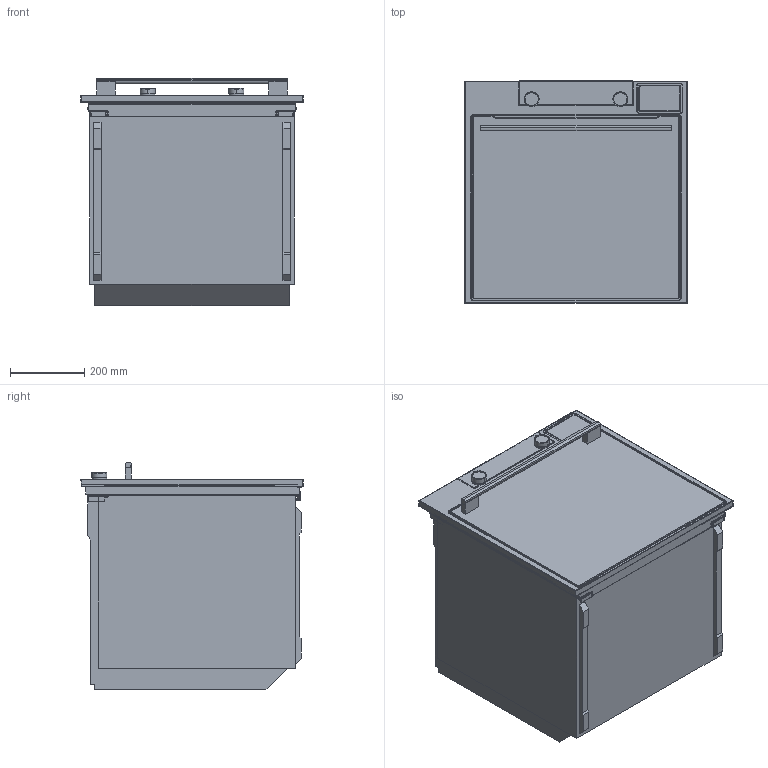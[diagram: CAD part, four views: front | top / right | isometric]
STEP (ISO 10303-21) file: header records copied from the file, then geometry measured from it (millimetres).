
FILE_DESCRIPTION (( 'STEP AP203' ), '1' );
FILE_NAME ('503328_OCS8687S.STEP', '2017-09-14T07:11:36', ( '' ), ( '' ), 'SwSTEP 2.0', 'SolidWorks 2016', '' );
FILE_SCHEMA (( 'CONFIG_CONTROL_DESIGN' ));
Length unit declared in the file: millimetre
Products named in the file (25): CEL APARAT BIO 60 ST Dot matrix G.sldasm-Part-69; 003_FIX FRAME 60 STEAM.sldasm-Part-25; 003_FIX FRAME 60 STEAM.sldasm-Part-12; CEL APARAT BIO 60 ST Dot matrix G.sldasm-Part-70; 003_FIX FRAME 60 STEAM.sldasm-Part-27; 003_FIX FRAME 60 STEAM.sldasm-Part-9; OBOD PECICE; HANDLE MATRIX; 003_FIX FRAME 60 STEAM.sldasm-Part-7; PECICA; DOOR 60 MATRIX STEAM^003_FIX FRAME 60 STEAM; 003_FIX FRAME 60 STEAM.sldasm-Part-18; 003.sldasm-Part-10; 003_FIX FRAME 60 STEAM.sldasm-Part-32; 003_FIX FRAME 60 STEAM.sldasm-Part-37; OBOD; 003_FIX FRAME 60 STEAM.sldasm-Part-35; 003_FIX FRAME 60 STEAM.sldasm-Part-19; OVEN 60 MATRIX STEAM; KNOB MATRIX; 003_FIX FRAME 60 STEAM.sldasm-Part-29; 503328_OCS8687S; 003_FIX FRAME 60 STEAM; FRAME 60; 003_FIX FRAME 60 STEAM.sldasm-Part-40
Assembly tree (27 placements, depth 6):
  503328_OCS8687S
    OVEN 60 MATRIX STEAM
      003_FIX FRAME 60 STEAM
        003_FIX FRAME 60 STEAM.sldasm-Part-40
        003_FIX FRAME 60 STEAM.sldasm-Part-12
        003_FIX FRAME 60 STEAM.sldasm-Part-9
        003_FIX FRAME 60 STEAM.sldasm-Part-7
        003_FIX FRAME 60 STEAM.sldasm-Part-18
        DOOR 60 MATRIX STEAM^003_FIX FRAME 60 STEAM
          003_FIX FRAME 60 STEAM.sldasm-Part-37
          FRAME 60
            003_FIX FRAME 60 STEAM.sldasm-Part-19  x2
            003_FIX FRAME 60 STEAM.sldasm-Part-29
          HANDLE MATRIX
            003_FIX FRAME 60 STEAM.sldasm-Part-25  x2
            003_FIX FRAME 60 STEAM.sldasm-Part-27
        KNOB MATRIX  x2
          003_FIX FRAME 60 STEAM.sldasm-Part-32
          003_FIX FRAME 60 STEAM.sldasm-Part-35
      PECICA
        OBOD PECICE
          CEL APARAT BIO 60 ST Dot matrix G.sldasm-Part-69
          CEL APARAT BIO 60 ST Dot matrix G.sldasm-Part-70
      OBOD
        003.sldasm-Part-10
Bounding box: 597 x 596.9 x 610.17 mm (x, y, z)
Volume: 159164033.7 mm3; surface area: 3708870.6 mm2
Topology: 19 solids, 19 shells, 502 faces, 1305 edges, 847 vertices
Faces by surface type: plane 279, cylinder 185, bspline 26, torus 8, sphere 4
Entity records: 18170 total; most frequent: CARTESIAN_POINT 3924, ORIENTED_EDGE 2440, DIRECTION 2402, EDGE_CURVE 1220, VECTOR 824, LINE 824, VERTEX_POINT 793, AXIS2_PLACEMENT_3D 789
